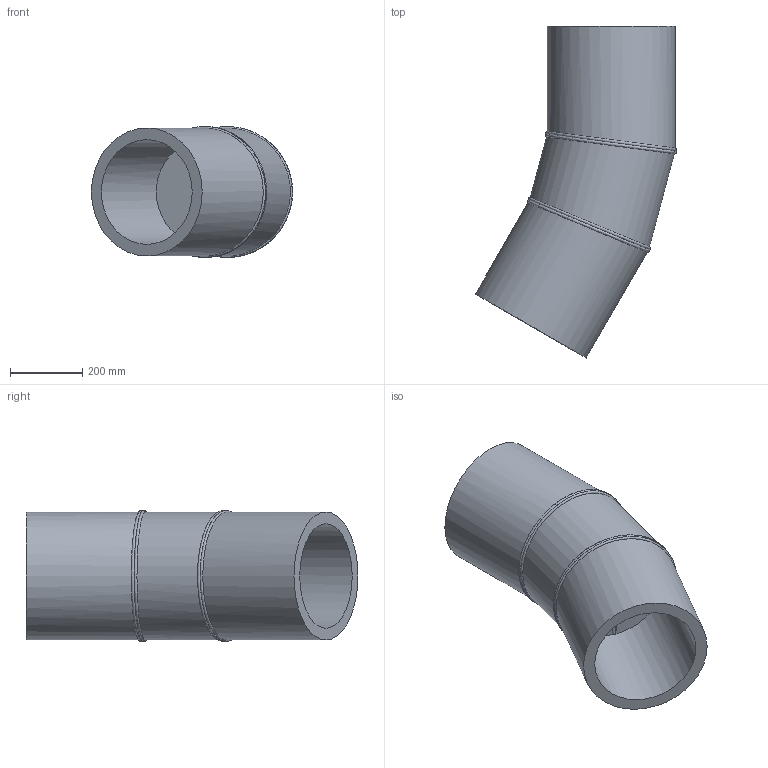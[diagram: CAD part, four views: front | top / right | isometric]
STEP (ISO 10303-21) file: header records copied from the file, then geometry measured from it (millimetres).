
FILE_DESCRIPTION(/* description */ ('Unknown'),/* implementation_level */ '2;1');
FILE_NAME(/* name */ 'Curva 30° a settore DE355 SDR11',/* time_stamp */ '2022-07-26T08:32:45+02:00',/* author */ ('Unknown'),/* organization */ ('Unknown'),/* preprocessor_version */ 'ST-DEVELOPER v18.102',/* originating_system */ 'Solid Edge',/* authorisation */ 'Unknown');
FILE_SCHEMA (('AUTOMOTIVE_DESIGN {1 0 10303 214 3 1 1}'));
Length unit declared in the file: millimetre
Products named in the file (3): Curva 30° a settore DE355 SDR11; Tubo x Gomito 30° DE355 SDR11 - 1; Tubo x Gomito 30° DE355 SDR11 - 2
Assembly tree (3 placements, depth 2):
  Curva 30° a settore DE355 SDR11
    Tubo x Gomito 30° DE355 SDR11 - 1  x2
    Tubo x Gomito 30° DE355 SDR11 - 2
Bounding box: 558.17 x 920.83 x 362.99 mm (x, y, z)
Volume: 28963441.7 mm3; surface area: 2010191.9 mm2
Topology: 3 solids, 3 shells, 24 faces, 51 edges, 33 vertices
Faces by surface type: cylinder 14, plane 6, bspline 4
Full cylindrical faces by diameter (mm): 290.6 x3, 355 x3
Entity records: 2341 total; most frequent: CARTESIAN_POINT 1946, DIRECTION 70, ORIENTED_EDGE 52, AXIS2_PLACEMENT_3D 35, EDGE_LOOP 28, FACE_BOUND 28, EDGE_CURVE 26, VERTEX_POINT 20
